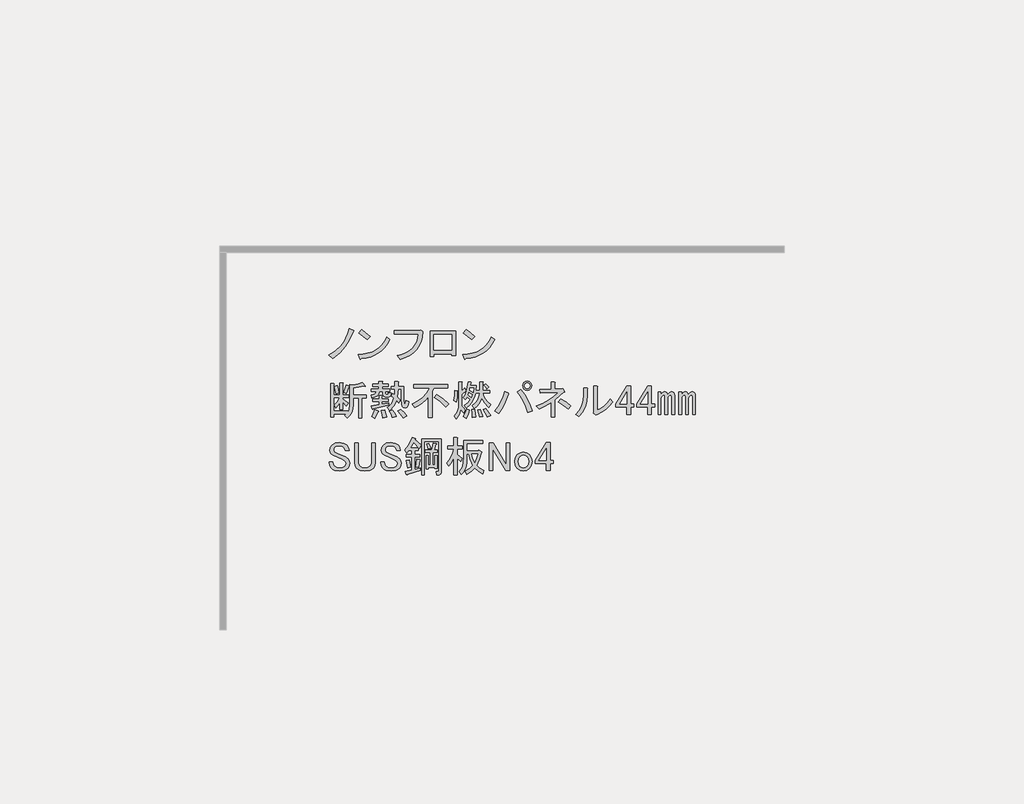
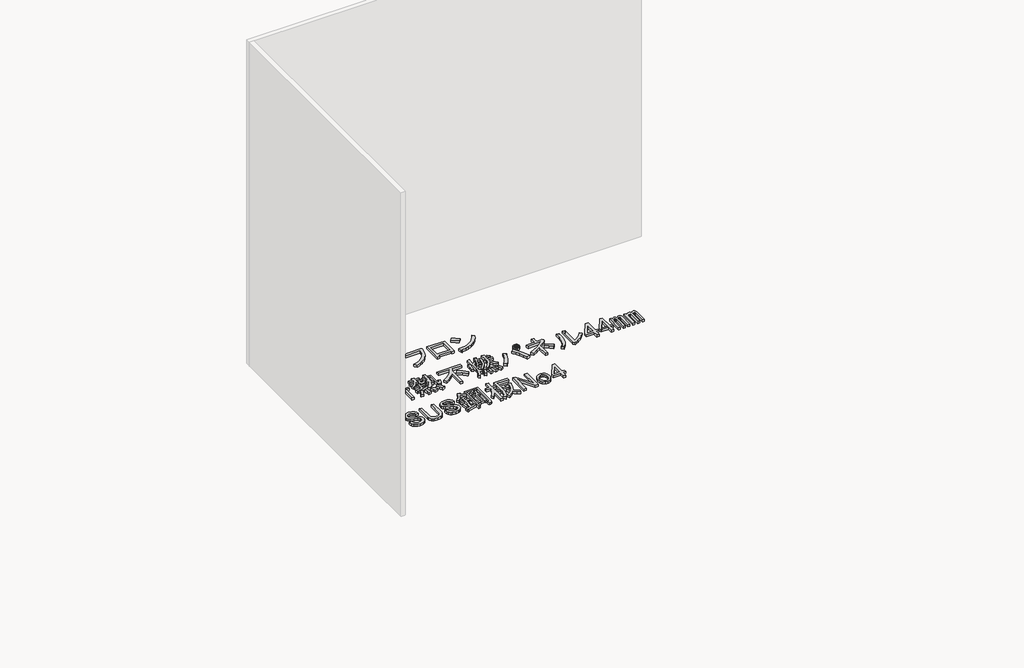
# One storey, part 33 of 117: 1 proxy.
"""IFC4 building model written with IfcOpenShell, lengths in millimetres."""

import ifcopenshell
import ifcopenshell.guid

model = None  # the IFC model being written
_history = None  # IfcOwnerHistory: only IFC2X3 demands one
_inside = {}  # id of a spatial element -> (the spatial element, [elements in it])
_under = {}  # id of a project, library or spatial element -> (it, [spatial elements below it])
_declared = {}  # id of a project -> (the project, [libraries it declares])
_typed = {}  # id of a type object -> (the type object, [elements of that type])
_made_of = {}  # id of a material, layer set ... -> (it, [elements and type objects made of it])


def new_model(schema):
    """Start an empty IFC model of exactly this schema.

    Asked for "IFC4X3", IfcOpenShell would pick the latest addendum, in which some entities
    have other attributes; the version numbers below select the first issue.
    IFC2X3 requires an IfcOwnerHistory on every rooted entity: one is made here for all.
    """
    global model, _history
    if schema == "IFC4X3":
        model = ifcopenshell.file(schema_version=(4, 3, 0, 0))
    else:
        model = ifcopenshell.file(schema=schema)
    _inside.clear()
    _under.clear()
    _declared.clear()
    _typed.clear()
    _made_of.clear()
    _history = None
    if model.schema == "IFC2X3":
        org = make("IfcOrganization", Name="unknown")
        user = make(
            "IfcPersonAndOrganization",
            ThePerson=make("IfcPerson", FamilyName="unknown"),
            TheOrganization=org,
        )
        app = make(
            "IfcApplication",
            ApplicationDeveloper=org,
            Version="unknown",
            ApplicationFullName="unknown",
            ApplicationIdentifier="unknown",
        )
        _history = make(
            "IfcOwnerHistory",
            OwningUser=user,
            OwningApplication=app,
            ChangeAction="ADDED",
            CreationDate=0,
        )
    return model


def make(cls, **values):
    """One entity of the class cls with the attributes given. An attribute that is None is left unset."""
    return model.create_entity(
        cls, **{name: value for name, value in values.items() if value is not None}
    )


def rooted(cls, **values):
    """An entity with a GlobalId (a new one), such as an element, a storey or a relation."""
    return make(cls, GlobalId=ifcopenshell.guid.new(), OwnerHistory=_history, **values)


def si_unit(unit_type, name, prefix=None):
    """IfcSIUnit, for example si_unit("LENGTHUNIT", "METRE", prefix="MILLI")."""
    return make("IfcSIUnit", UnitType=unit_type, Prefix=prefix, Name=name)


def assignment(units):
    """IfcUnitAssignment: the units of a project."""
    return None if units is None else make("IfcUnitAssignment", Units=units)


def point(xyz):
    """IfcCartesianPoint."""
    return None if xyz is None else make("IfcCartesianPoint", Coordinates=xyz)


def direction(xyz):
    """IfcDirection."""
    return None if xyz is None else make("IfcDirection", DirectionRatios=xyz)


def frame(location, z_axis=None, x_axis=None):
    """IfcAxis2Placement3D, a coordinate frame: its origin and axes. An axis left out is left unset."""
    return make(
        "IfcAxis2Placement3D",
        Location=point(location),
        Axis=direction(z_axis),
        RefDirection=direction(x_axis),
    )


def origin():
    """The frame at (0, 0, 0) with its axes left unset."""
    return frame((0.0, 0.0, 0.0))


def place(relative_to, where):
    """IfcLocalPlacement: puts the frame where relative to a parent placement (None: the world)."""
    return make(
        "IfcLocalPlacement", PlacementRelTo=relative_to, RelativePlacement=where
    )


def context(
    kind, dimensions, precision=None, world=None, true_north=None, identifier=None
):
    """IfcGeometricRepresentationContext, for example the 3D "Model" context."""
    return make(
        "IfcGeometricRepresentationContext",
        ContextIdentifier=identifier,
        ContextType=kind,
        CoordinateSpaceDimension=dimensions,
        Precision=precision,
        WorldCoordinateSystem=world,
        TrueNorth=true_north,
    )


def project(units=None, contexts=None):
    """IfcProject with its units and contexts."""
    return rooted(
        "IfcProject",
        Name="project",
        RepresentationContexts=contexts,
        UnitsInContext=assignment(units),
    )


def spatial(cls, under=None, at=None, **own):
    """A site, building, storey or space (cls), placed at a placement, below another one or the project."""
    s = rooted(cls, ObjectPlacement=at, **own)
    if under is not None:
        _under.setdefault(under.id(), (under, []))[1].append(s)
    return s


def polyline(points):
    """IfcPolyline through the points."""
    return make("IfcPolyline", Points=[point(p) for p in points])


def outline(outer, holes=None, kind="AREA"):
    """IfcArbitraryClosedProfileDef: a profile drawn as a closed curve; with holes, ...WithVoids."""
    if holes is None:
        return make("IfcArbitraryClosedProfileDef", ProfileType=kind, OuterCurve=outer)
    return make(
        "IfcArbitraryProfileDefWithVoids",
        ProfileType=kind,
        OuterCurve=outer,
        InnerCurves=holes,
    )


def extrude(swept, where, along, depth):
    """IfcExtrudedAreaSolid: the profile swept, set in the frame where, extruded along a direction by depth."""
    return make(
        "IfcExtrudedAreaSolid",
        SweptArea=swept,
        Position=where,
        ExtrudedDirection=direction(along),
        Depth=depth,
    )


def shape(context_of_items, identifier, shape_type, items):
    """IfcShapeRepresentation: the items that make up one representation, for example the "Body"."""
    return make(
        "IfcShapeRepresentation",
        ContextOfItems=context_of_items,
        RepresentationIdentifier=identifier,
        RepresentationType=shape_type,
        Items=items,
    )


def made_of(thing, what):
    """Note that an element or type object is made of a material, layer set ...; save() writes the relation."""
    if what is not None:
        _made_of.setdefault(what.id(), (what, []))[1].append(thing)
    return thing


def element(
    cls,
    number,
    at=None,
    inside=None,
    cuts=None,
    type_object=None,
    material=None,
    context=None,
    identifier="Body",
    shape_type=None,
    held_by="IfcProductDefinitionShape",
    body=None,
    shapes=None,
    **own,
):
    """One element of the class cls, such as IfcWall. Its Tag is "e" and its number.

    at: its placement. inside: the storey or other place that contains it. cuts: it is an
    opening in that element (IfcRelVoidsElement). A single representation is given by context,
    identifier, shape_type and body (its items); several are given by shapes. held_by: the class
    of the entity that holds the representations. save() writes the other relations.
    """
    e = rooted(cls, Tag="e%d" % number, ObjectPlacement=at, **own)
    if body is not None:
        shapes = [shape(context, identifier, shape_type, body)]
    if shapes is not None:
        e.Representation = make(held_by, Representations=shapes)
    if inside is not None:
        _inside.setdefault(inside.id(), (inside, []))[1].append(e)
    if cuts is not None:
        rooted(
            "IfcRelVoidsElement", RelatingBuildingElement=cuts, RelatedOpeningElement=e
        )
    if type_object is not None:
        _typed.setdefault(type_object.id(), (type_object, []))[1].append(e)
    return made_of(e, material)


def aggregate(whole, parts):
    """IfcRelAggregates: a whole, such as a stair, and the parts it consists of."""
    return rooted("IfcRelAggregates", RelatingObject=whole, RelatedObjects=parts)


def save(model, path):
    """Write the relations noted so far, then the file.

    IfcRelAggregates (storeys below a building ...), IfcRelContainedInSpatialStructure (elements
    in a storey), IfcRelDefinesByType, IfcRelAssociatesMaterial and IfcRelDeclares: one each for
    every whole, place, type object, material and project.
    """
    for whole, parts in _under.values():
        aggregate(whole, parts)
    for where, things in _inside.values():
        rooted(
            "IfcRelContainedInSpatialStructure",
            RelatedElements=things,
            RelatingStructure=where,
        )
    for kind, things in _typed.values():
        rooted("IfcRelDefinesByType", RelatedObjects=things, RelatingType=kind)
    for what, things in _made_of.values():
        rooted("IfcRelAssociatesMaterial", RelatedObjects=things, RelatingMaterial=what)
    for by, libraries in _declared.values():
        rooted("IfcRelDeclares", RelatingContext=by, RelatedDefinitions=libraries)
    model.write(path)


model = new_model("IFC4")

# Units and contexts
model_context = context("Model", 3, world=origin())
ifc_project = project(units=[si_unit("LENGTHUNIT", "METRE", prefix="MILLI")], contexts=[model_context])

# Site, building, storey
site = spatial("IfcSite", under=ifc_project)
building = spatial("IfcBuilding", under=site)
storey = spatial("IfcBuildingStorey", under=building, Name="レベル 1", Elevation=500.0)

# Proxy
placement = place(None, origin())
element("IfcBuildingElementProxy", 1, Name="200㎜\u3000MS Pゴシック", ObjectType="200㎜\u3000MS Pゴシック", at=placement, inside=storey, context=model_context, shape_type="SweptSolid", body=[
    extrude(outline(polyline([(16943.6706985, -20607.0496882), (16918.0952502, -20666.8215225), (16889.646156, -20712.7998566), (16847.9782907, -20758.2034615), (16798.8389462, -20795.560858), (16771.2519457, -20773.7211493), (16818.9544673, -20743.2605029), (16858.6107805, -20704.7536481), (16875.9963381, -20680.8305462), (16891.3703435, -20652.7406577), (16904.7327969, -20620.4839827), (16916.0836981, -20584.0605212), (16947.1190736, -20597.8540214), (16950.2800841, -20602.4518548), (16943.6706985, -20607.0496882)])), frame((0.0, 0.0, 500.0), z_axis=(0.0, 0.0, 1.0), x_axis=(1.0, 0.0, 0.0)), (0.0, 0.0, 1.0), 25.0),
    extrude(outline(polyline([(17043.3977052, -20662.2236891), (16984.7753292, -20615.0958967), (17004.3161212, -20590.9572713), (17031.6157571, -20610.7854279), (17065.2374138, -20640.3839804), (17043.3977052, -20662.2236891)])), frame((0.0, 0.0, 500.0), z_axis=(0.0, 0.0, 1.0), x_axis=(1.0, 0.0, 0.0)), (0.0, 0.0, 1.0), 25.0),
    extrude(outline(polyline([(17205.4713328, -20662.2236891), (17188.947869, -20691.965924), (17169.8381239, -20717.9724192), (17148.1420975, -20740.2431748), (17123.8597898, -20758.7781907), (17096.9912008, -20773.577467), (17067.5363306, -20784.6410036), (17035.495179, -20791.9688006), (17000.8677461, -20795.560858), (16995.1204544, -20803.6070664), (16989.3731626, -20797.8597747), (16980.1774958, -20767.9738575), (17016.0082679, -20765.2977748), (17048.7857912, -20758.9937141), (17078.5100658, -20749.0616756), (17105.1810916, -20735.5016591), (17128.7988687, -20718.3136646), (17149.363397, -20697.4976923), (17166.8746766, -20673.053742), (17181.3327074, -20644.9818138), (17205.4713328, -20662.2236891)])), frame((0.0, 0.0, 500.0), z_axis=(0.0, 0.0, 1.0), x_axis=(1.0, 0.0, 0.0)), (0.0, 0.0, 1.0), 25.0),
    extrude(outline(polyline([(17256.2314136, -20777.1695243), (17290.014713, -20767.4889298), (17319.5234641, -20755.1142922), (17344.757667, -20740.0456116), (17365.7173217, -20722.282888), (17382.402428, -20701.8261214), (17394.8129862, -20678.6753118), (17402.9489961, -20652.8304591), (17406.8104577, -20624.2915635), (17234.3917049, -20624.2915635), (17234.3917049, -20599.0034798), (17409.1093744, -20599.0034798), (17425.2017914, -20595.5551047), (17437.8458332, -20607.0496882), (17434.325617, -20643.5449909), (17426.0638851, -20676.5919185), (17413.0606375, -20706.1904711), (17395.3158742, -20732.3406486), (17372.8295952, -20755.042451), (17345.6018005, -20774.2958784), (17313.6324901, -20790.1009308), (17276.921664, -20802.4576081), (17256.2314136, -20777.1695243)])), frame((0.0, 0.0, 500.0), z_axis=(0.0, 0.0, 1.0), x_axis=(1.0, 0.0, 0.0)), (0.0, 0.0, 1.0), 25.0),
    extrude(outline(polyline([(17670.955987, -20776.020066), (17644.5184449, -20776.020066), (17644.5184449, -20763.3760241), (17516.9285679, -20763.3760241), (17516.9285679, -20781.7673577), (17490.4910258, -20781.7673577), (17490.4910258, -20602.4518548), (17670.955987, -20602.4518548), (17670.955987, -20776.020066)]), holes=[polyline([(17516.9285679, -20627.7399386), (17516.9285679, -20738.0879404), (17644.5184449, -20738.0879404), (17644.5184449, -20627.7399386), (17516.9285679, -20627.7399386)])]), frame((0.0, 0.0, 500.0), z_axis=(0.0, 0.0, 1.0), x_axis=(1.0, 0.0, 0.0)), (0.0, 0.0, 1.0), 25.0),
    extrude(outline(polyline([(17947.0099049, -20662.2236891), (17930.4864411, -20691.965924), (17911.376696, -20717.9724192), (17889.6806696, -20740.2431748), (17865.3983619, -20758.7781907), (17838.5297729, -20773.577467), (17809.0749026, -20784.6410036), (17777.0337511, -20791.9688006), (17742.4063182, -20795.560858), (17736.6590264, -20803.6070664), (17730.9117347, -20797.8597747), (17721.7160679, -20767.9738575), (17757.5468399, -20765.2977748), (17790.3243633, -20758.9937141), (17820.0486378, -20749.0616756), (17846.7196637, -20735.5016591), (17870.3374407, -20718.3136646), (17890.9019691, -20697.4976923), (17908.4132486, -20673.053742), (17922.8712795, -20644.9818138), (17947.0099049, -20662.2236891)])), frame((0.0, 0.0, 500.0), z_axis=(0.0, 0.0, 1.0), x_axis=(1.0, 0.0, 0.0)), (0.0, 0.0, 1.0), 25.0),
    extrude(outline(polyline([(17784.9362772, -20662.2236891), (17726.3139013, -20615.0958967), (17745.8546933, -20590.9572713), (17773.1543291, -20610.7854279), (17806.7759859, -20640.3839804), (17784.9362772, -20662.2236891)])), frame((0.0, 0.0, 500.0), z_axis=(0.0, 0.0, 1.0), x_axis=(1.0, 0.0, 0.0)), (0.0, 0.0, 1.0), 25.0),
    extrude(outline(polyline([(16877.0021141, -21039.2345221), (16894.2439894, -20986.3594379), (16914.9342397, -20992.1067296), (16916.6584273, -20995.2677401), (16912.635323, -20997.8540214), (16895.3934477, -21046.1312722), (16877.0021141, -21039.2345221)])), frame((0.0, 0.0, 500.0), z_axis=(0.0, 0.0, 1.0), x_axis=(1.0, 0.0, 0.0)), (0.0, 0.0, 1.0), 25.0),
    extrude(outline(polyline([(17031.0295333, -20990.9572713), (17029.3053458, -20995.5551047), (17021.8338665, -20993.256188), (16944.8201569, -21005.9002299), (16944.8201569, -21055.326939), (17036.7768251, -21055.326939), (17036.7768251, -21077.1666477), (17005.7414495, -21077.1666477), (17005.7414495, -21217.4005666), (16982.7522825, -21217.4005666), (16982.7522825, -21077.1666477), (16944.8201569, -21077.1666477), (16944.8201569, -21126.5933568), (16942.2338756, -21154.3958807), (16934.4750317, -21179.1810764), (16921.5436253, -21200.948944), (16903.4396562, -21219.6994833), (16886.1977809, -21200.1586914), (16896.5429061, -21190.9630245), (16806.8851546, -21190.9630245), (16806.8851546, -21212.8027332), (16783.8959876, -21212.8027332), (16783.8959876, -20973.715396), (16805.7356963, -20973.715396), (16810.6208943, -20976.0143127), (16806.8851546, -20980.6121461), (16806.8851546, -21056.4763974), (16849.4151137, -21056.4763974), (16849.4151137, -20969.1175626), (16867.8064473, -20969.1175626), (16872.6916453, -20971.4164793), (16868.9559057, -20976.0143127), (16868.9559057, -21056.4763974), (16912.635323, -21056.4763974), (16912.635323, -21074.867731), (16868.9559057, -21074.867731), (16868.9559057, -21084.0633978), (16909.186948, -21110.5009399), (16895.3934477, -21132.3406486), (16868.9559057, -21105.9031065), (16868.9559057, -21158.7781907), (16849.4151137, -21158.7781907), (16849.4151137, -21110.5009399), (16836.1963426, -21130.3290965), (16821.8281132, -21146.1341488), (16809.1840713, -21127.7428152), (16831.02378, -21103.6041898), (16848.2656553, -21074.867731), (16806.8851546, -21074.867731), (16806.8851546, -21169.1233159), (16904.5891146, -21169.1233159), (16904.5891146, -21182.9168161), (16917.520521, -21158.7781907), (16921.8309898, -21125.4438985), (16921.8309898, -20980.6121461), (16943.6706985, -20986.3594379), (16979.8786366, -20978.8879586), (17010.339283, -20965.6691875), (17031.0295333, -20990.9572713)])), frame((0.0, 0.0, 500.0), z_axis=(0.0, 0.0, 1.0), x_axis=(1.0, 0.0, 0.0)), (0.0, 0.0, 1.0), 25.0),
    extrude(outline(polyline([(16822.9775716, -21047.2807305), (16810.3335297, -20996.7045631), (16829.8743217, -20989.8078129), (16837.6331656, -21013.9464383), (16842.5183636, -21040.3839804), (16822.9775716, -21047.2807305)])), frame((0.0, 0.0, 500.0), z_axis=(0.0, 0.0, 1.0), x_axis=(1.0, 0.0, 0.0)), (0.0, 0.0, 1.0), 25.0),
    extrude(outline(polyline([(17121.8367431, -21167.9738575), (17125.2851182, -21172.8590555), (17119.5378264, -21176.020066), (17109.7674304, -21201.5955143), (17098.8475761, -21220.8489417), (17075.858409, -21209.3543582), (17088.5024509, -21185.790462), (17098.8475761, -21158.7781907), (17121.8367431, -21167.9738575)])), frame((0.0, 0.0, 500.0), z_axis=(0.0, 0.0, 1.0), x_axis=(1.0, 0.0, 0.0)), (0.0, 0.0, 1.0), 25.0),
    extrude(outline(polyline([(17166.6656188, -21163.3760241), (17176.7233794, -21190.67566), (17181.6085774, -21212.8027332), (17152.8721186, -21218.550025), (17150.2858373, -21196.9976809), (17142.5269934, -21166.8243992), (17166.6656188, -21163.3760241)])), frame((0.0, 0.0, 500.0), z_axis=(0.0, 0.0, 1.0), x_axis=(1.0, 0.0, 0.0)), (0.0, 0.0, 1.0), 25.0),
    extrude(outline(polyline([(17281.611454, -21157.6287323), (17306.3248086, -21178.8937119), (17325.2908714, -21203.6070664), (17298.8533293, -21218.550025), (17279.5999019, -21188.9514724), (17260.9212037, -21169.1233159), (17281.611454, -21157.6287323)])), frame((0.0, 0.0, 500.0), z_axis=(0.0, 0.0, 1.0), x_axis=(1.0, 0.0, 0.0)), (0.0, 0.0, 1.0), 25.0),
    extrude(outline(polyline([(17222.9890781, -21216.2511083), (17214.655505, -21191.5377537), (17201.1493694, -21170.2727742), (17221.8396197, -21162.2265657), (17238.7941304, -21183.7789098), (17250.5760785, -21207.0554415), (17222.9890781, -21216.2511083)])), frame((0.0, 0.0, 500.0), z_axis=(0.0, 0.0, 1.0), x_axis=(1.0, 0.0, 0.0)), (0.0, 0.0, 1.0), 25.0),
    extrude(outline(polyline([(17083.9046175, -21153.0308989), (17081.8930654, -21157.9160969), (17078.1573257, -21156.479274), (17072.410034, -21132.3406486), (17127.5840349, -21124.2944401), (17127.5840349, -21101.3052731), (17083.9046175, -21101.3052731), (17083.9046175, -21082.9139395), (17127.5840349, -21082.9139395), (17127.5840349, -21059.9247724), (17145.9753685, -21059.9247724), (17150.8605665, -21062.2236891), (17147.1248268, -21066.8215225), (17147.1248268, -21082.9139395), (17191.9537026, -21082.9139395), (17191.9537026, -21101.3052731), (17147.1248268, -21101.3052731), (17147.1248268, -21120.8460651), (17197.7009943, -21111.6503983), (17197.7009943, -21127.7428152), (17083.9046175, -21153.0308989)])), frame((0.0, 0.0, 500.0), z_axis=(0.0, 0.0, 1.0), x_axis=(1.0, 0.0, 0.0)), (0.0, 0.0, 1.0), 25.0),
    extrude(outline(polyline([(17154.021577, -21031.1883136), (17128.7334932, -21031.1883136), (17124.1356598, -21048.6457123), (17113.7905346, -21061.9363245), (17097.6981177, -21071.0601502), (17075.858409, -21076.0171893), (17071.2605756, -21056.4763974), (17096.5486594, -21047.8554597), (17104.0201386, -21040.5276627), (17108.0432429, -21031.1883136), (17072.410034, -21031.1883136), (17072.410034, -21012.79698), (17126.4345765, -21012.79698), (17126.4345765, -20995.5551047), (17082.7551591, -20995.5551047), (17082.7551591, -20977.1637711), (17126.4345765, -20977.1637711), (17126.4345765, -20958.7724374), (17148.2742852, -20958.7724374), (17153.1594832, -20961.0713541), (17149.4237436, -20965.6691875), (17149.4237436, -20977.1637711), (17191.9537026, -20977.1637711), (17191.9537026, -20995.5551047), (17149.4237436, -20995.5551047), (17149.4237436, -21012.79698), (17202.2988277, -21012.79698), (17202.2988277, -21031.1883136), (17173.5623689, -21031.1883136), (17173.5623689, -21043.8323555), (17174.9991919, -21049.0049181), (17179.3096607, -21050.7291056), (17189.6547859, -21050.7291056), (17193.3905255, -21047.5680951), (17193.1031609, -21038.0850637), (17212.6439529, -21040.3839804), (17209.770307, -21061.9363245), (17204.4540622, -21067.3244106), (17196.551536, -21069.1204392), (17172.4129106, -21069.1204392), (17158.6194104, -21064.2352412), (17154.021577, -21049.5796472), (17154.021577, -21031.1883136)])), frame((0.0, 0.0, 500.0), z_axis=(0.0, 0.0, 1.0), x_axis=(1.0, 0.0, 0.0)), (0.0, 0.0, 1.0), 25.0),
    extrude(outline(polyline([(17285.0598291, -21013.9464383), (17263.2201204, -21013.9464383), (17258.622287, -21071.4193559), (17278.163079, -21089.8106896), (17267.8179538, -21111.6503983), (17251.7255369, -21095.5579813), (17232.4721095, -21133.2027424), (17202.2988277, -21165.6749408), (17185.0569525, -21144.9846905), (17200.1435933, -21133.0590601), (17213.2186821, -21117.9724192), (17224.2822187, -21099.7247679), (17233.3342033, -21078.316106), (17216.092328, -21063.3731475), (17224.1385364, -21046.1312722), (17237.9320367, -21056.4763974), (17240.2309534, -21013.9464383), (17212.6439529, -21013.9464383), (17212.6439529, -20995.5551047), (17240.2309534, -20995.5551047), (17240.2309534, -20961.0713541), (17262.0706621, -20961.0713541), (17266.95586, -20963.3702708), (17263.2201204, -20967.9681043), (17263.2201204, -20995.5551047), (17304.6006211, -20995.5551047), (17304.6006211, -21092.1096063), (17308.0489961, -21116.2482317), (17311.2818477, -21118.2597838), (17314.0836525, -21115.0987733), (17318.3941213, -21093.2590646), (17337.9349133, -21100.1558147), (17333.408921, -21126.9525626), (17325.578236, -21142.9731384), (17314.4428582, -21148.2175421), (17300.0027877, -21142.6857738), (17293.4652433, -21135.3579768), (17288.7955687, -21123.719711), (17285.0598291, -21087.5117729), (17285.0598291, -21013.9464383)])), frame((0.0, 0.0, 500.0), z_axis=(0.0, 0.0, 1.0), x_axis=(1.0, 0.0, 0.0)), (0.0, 0.0, 1.0), 25.0),
    extrude(outline(polyline([(17373.5681222, -20980.6121461), (17614.9543761, -20980.6121461), (17614.9543761, -21005.9002299), (17514.9514995, -21005.9002299), (17504.6063743, -21030.0388553), (17504.6063743, -21216.2511083), (17478.1688322, -21216.2511083), (17478.1688322, -21069.1204392), (17457.3348996, -21092.3969709), (17433.9146857, -21112.7998566), (17407.9081905, -21130.3290965), (17379.315414, -21144.9846905), (17363.222997, -21118.5471484), (17402.807469, -21098.1442626), (17436.500967, -21072.5688143), (17464.3034909, -21041.8208034), (17486.2150407, -21005.9002299), (17373.5681222, -21005.9002299), (17373.5681222, -20980.6121461)])), frame((0.0, 0.0, 500.0), z_axis=(0.0, 0.0, 1.0), x_axis=(1.0, 0.0, 0.0)), (0.0, 0.0, 1.0), 25.0),
    extrude(outline(polyline([(17600.0114176, -21141.5363154), (17560.9298336, -21103.3168252), (17519.5493329, -21073.7182726), (17535.6417498, -21053.0280223), (17579.3211672, -21081.1897519), (17620.7016679, -21119.6966067), (17600.0114176, -21141.5363154)])), frame((0.0, 0.0, 500.0), z_axis=(0.0, 0.0, 1.0), x_axis=(1.0, 0.0, 0.0)), (0.0, 0.0, 1.0), 25.0),
    extrude(outline(polyline([(17767.832337, -21163.3760241), (17759.2113993, -21193.8366704), (17744.8431699, -21220.8489417), (17725.3023779, -21208.2048998), (17739.3832427, -21183.4915453), (17749.4410033, -21155.3298156), (17767.832337, -21163.3760241)])), frame((0.0, 0.0, 500.0), z_axis=(0.0, 0.0, 1.0), x_axis=(1.0, 0.0, 0.0)), (0.0, 0.0, 1.0), 25.0),
    extrude(outline(polyline([(17682.7724189, -21025.4410219), (17687.3702523, -21027.7399386), (17682.7724189, -21032.337772), (17681.6229605, -21071.9940851), (17675.8756688, -21105.9031065), (17657.4843352, -21093.2590646), (17663.2316269, -21058.7753141), (17664.3810853, -21021.9926468), (17682.7724189, -21025.4410219)])), frame((0.0, 0.0, 500.0), z_axis=(0.0, 0.0, 1.0), x_axis=(1.0, 0.0, 0.0)), (0.0, 0.0, 1.0), 25.0),
    extrude(outline(polyline([(17734.4980447, -21007.0496882), (17743.6937116, -21024.2915635), (17745.1305345, -21030.3262199), (17740.2453365, -21030.0388553), (17713.8077944, -21050.7291056), (17713.8077944, -21134.6395653), (17727.6012946, -21146.9962426), (17739.0958781, -21163.3760241), (17726.4518363, -21184.0662744), (17708.0605026, -21158.7781907), (17696.2785545, -21194.6987642), (17674.7262104, -21224.2973168), (17659.7832519, -21205.9059831), (17674.8698927, -21187.1554438), (17685.6460648, -21166.5370346), (17692.111768, -21144.0507556), (17694.2670024, -21119.6966067), (17694.2670024, -20962.2208125), (17712.6583361, -20962.2208125), (17717.543534, -20964.5197292), (17713.8077944, -20969.1175626), (17713.8077944, -21027.7399386), (17734.4980447, -21007.0496882)])), frame((0.0, 0.0, 500.0), z_axis=(0.0, 0.0, 1.0), x_axis=(1.0, 0.0, 0.0)), (0.0, 0.0, 1.0), 25.0),
    extrude(outline(polyline([(17885.0770889, -20976.0143127), (17906.9167975, -21000.1529381), (17889.6749223, -21011.6475216), (17883.0655367, -21000.1529381), (17870.1341303, -20986.3594379), (17885.0770889, -20976.0143127)])), frame((0.0, 0.0, 500.0), z_axis=(0.0, 0.0, 1.0), x_axis=(1.0, 0.0, 0.0)), (0.0, 0.0, 1.0), 25.0),
    extrude(outline(polyline([(17895.422214, -21212.8027332), (17882.203443, -21184.6410036), (17865.5362969, -21159.927649), (17883.9276305, -21151.8814406), (17902.8936933, -21174.8706076), (17918.4113811, -21202.4576081), (17895.422214, -21212.8027332)])), frame((0.0, 0.0, 500.0), z_axis=(0.0, 0.0, 1.0), x_axis=(1.0, 0.0, 0.0)), (0.0, 0.0, 1.0), 25.0),
    extrude(outline(polyline([(17845.9955049, -21157.6287323), (17864.3868385, -21207.0554415), (17840.2482131, -21211.6532749), (17826.4547129, -21161.0771074), (17845.9955049, -21157.6287323)])), frame((0.0, 0.0, 500.0), z_axis=(0.0, 0.0, 1.0), x_axis=(1.0, 0.0, 0.0)), (0.0, 0.0, 1.0), 25.0),
    extrude(outline(polyline([(17787.3731289, -21215.1016499), (17787.9478581, -21188.0893787), (17785.0742122, -21159.927649), (17804.6150042, -21158.7781907), (17810.9370252, -21184.9283682), (17811.5117543, -21212.8027332), (17787.3731289, -21215.1016499)])), frame((0.0, 0.0, 500.0), z_axis=(0.0, 0.0, 1.0), x_axis=(1.0, 0.0, 0.0)), (0.0, 0.0, 1.0), 25.0),
    extrude(outline(polyline([(17906.9167975, -21142.6857738), (17876.1687866, -21112.2251274), (17855.1911717, -21078.316106), (17846.7857575, -21100.4431793), (17835.3630151, -21119.6966067), (17820.9229446, -21136.0763882), (17803.4655459, -21149.5825239), (17789.6720456, -21131.1911902), (17810.5059783, -21112.2969686), (17825.8799837, -21091.2475125), (17835.794062, -21068.042822), (17840.2482131, -21042.6828971), (17811.5117543, -21042.6828971), (17803.537387, -21073.2872258), (17789.9594102, -21100.7305439), (17770.777824, -21125.0128516), (17745.9926283, -21146.1341488), (17733.3485864, -21130.0417319), (17759.2113993, -21108.4893878), (17774.7290871, -21087.5117729), (17752.8893784, -21067.9709809), (17739.0958781, -21088.6612312), (17725.3023779, -21073.7182726), (17737.7308964, -21054.6803687), (17747.4294512, -21029.7514907), (17754.3980425, -20998.9316386), (17758.6366701, -20962.2208125), (17779.3269205, -20964.5197292), (17782.7752955, -20967.1060105), (17777.0280038, -20970.267021), (17774.7290871, -20988.6583546), (17818.4085044, -20988.6583546), (17814.9601294, -21024.2915635), (17840.2482131, -21024.2915635), (17840.2482131, -20962.2208125), (17862.0879218, -20962.2208125), (17866.9731198, -20964.5197292), (17863.2373802, -20969.1175626), (17863.2373802, -21024.2915635), (17912.6640893, -21024.2915635), (17912.6640893, -21042.6828971), (17863.2373802, -21042.6828971), (17869.7749245, -21064.4507647), (17881.3413492, -21084.9254916), (17897.9366542, -21104.1070778), (17919.5608394, -21121.9955234), (17906.9167975, -21142.6857738)]), holes=[polyline([(17782.7752955, -21072.5688143), (17789.6720456, -21053.0280223), (17764.3839619, -21036.9356054), (17758.6366701, -21054.1774807), (17782.7752955, -21072.5688143)]), polyline([(17772.4301704, -21007.0496882), (17768.9817953, -21023.1421052), (17794.269879, -21036.9356054), (17798.8677125, -21007.0496882), (17772.4301704, -21007.0496882)])]), frame((0.0, 0.0, 500.0), z_axis=(0.0, 0.0, 1.0), x_axis=(1.0, 0.0, 0.0)), (0.0, 0.0, 1.0), 25.0),
    extrude(outline(polyline([(18132.2106345, -21016.245355), (18158.8637001, -21052.9561812), (18181.3499791, -21090.6727833), (18199.6694716, -21129.3951616), (18213.8221775, -21169.1233159), (18182.786802, -21179.468441), (18167.3409554, -21136.3637528), (18149.7398744, -21097.856898), (18129.983559, -21063.9478766), (18108.0720092, -21034.6366887), (18132.2106345, -21016.245355)])), frame((0.0, 0.0, 500.0), z_axis=(0.0, 0.0, 1.0), x_axis=(1.0, 0.0, 0.0)), (0.0, 0.0, 1.0), 25.0),
    extrude(outline(polyline([(18044.8517998, -21042.6828971), (18048.874904, -21048.1428243), (18042.5528831, -21053.0280223), (18030.6272527, -21088.4457078), (18015.5406118, -21122.282888), (17997.2929605, -21154.539563), (17975.8842987, -21185.2157328), (17949.4467566, -21167.9738575), (17972.6514471, -21136.5074351), (17991.689351, -21103.0294606), (18006.5604684, -21067.539934), (18017.2647993, -21030.0388553), (18044.8517998, -21042.6828971)])), frame((0.0, 0.0, 500.0), z_axis=(0.0, 0.0, 1.0), x_axis=(1.0, 0.0, 0.0)), (0.0, 0.0, 1.0), 25.0),
    extrude(outline(polyline([(18178.1889686, -21021.9926468), (18165.5449268, -21019.6937301), (18155.1998016, -21012.79698), (18148.3030515, -21002.4518548), (18146.0041348, -20989.8078129), (18148.3030515, -20977.1637711), (18155.1998016, -20966.8186459), (18165.5449268, -20959.9218958), (18178.1889686, -20957.6229791), (18190.8330105, -20959.9218958), (18201.1781357, -20966.8186459), (18208.0748858, -20977.1637711), (18210.3738025, -20989.8078129), (18208.0748858, -21002.4518548), (18201.1781357, -21012.79698), (18190.8330105, -21019.6937301), (18178.1889686, -21021.9926468)]), holes=[polyline([(18178.1889686, -21010.4980633), (18186.5225417, -21009.0612403), (18193.1319272, -21004.7507715), (18197.442396, -20998.141386), (18198.879219, -20989.8078129), (18197.442396, -20981.4742399), (18193.1319272, -20974.8648544), (18186.5225417, -20970.5543855), (18178.1889686, -20969.1175626), (18169.8553956, -20970.5543855), (18163.2460101, -20974.8648544), (18158.9355412, -20981.4742399), (18157.4987183, -20989.8078129), (18158.9355412, -20998.141386), (18163.2460101, -21004.7507715), (18169.8553956, -21009.0612403), (18178.1889686, -21010.4980633)])]), frame((0.0, 0.0, 500.0), z_axis=(0.0, 0.0, 1.0), x_axis=(1.0, 0.0, 0.0)), (0.0, 0.0, 1.0), 25.0),
    extrude(outline(polyline([(18421.8741393, -21011.6475216), (18428.7708894, -21009.3486049), (18441.4149312, -21026.5904802), (18442.5643896, -21032.6251366), (18436.8170978, -21034.6366887), (18373.5968885, -21090.9601479), (18373.5968885, -21211.6532749), (18347.1593464, -21211.6532749), (18347.1593464, -21109.3514816), (18306.9283041, -21133.4901069), (18262.0994283, -21155.3298156), (18242.5586363, -21134.6395653), (18288.1059235, -21115.1706145), (18329.3427419, -21092.3969709), (18366.2690915, -21066.3186345), (18398.8849722, -21036.9356054), (18268.9961784, -21042.6828971), (18265.5478034, -21017.3948134), (18347.1593464, -21015.0958967), (18347.1593464, -20963.3702708), (18370.1485134, -20963.3702708), (18376.1831698, -20966.8186459), (18373.5968885, -20972.5659377), (18373.5968885, -21013.9464383), (18421.8741393, -21011.6475216)])), frame((0.0, 0.0, 500.0), z_axis=(0.0, 0.0, 1.0), x_axis=(1.0, 0.0, 0.0)), (0.0, 0.0, 1.0), 25.0),
    extrude(outline(polyline([(18467.8524733, -21155.3298156), (18430.7824415, -21126.0186277), (18397.7355139, -21104.7536481), (18414.9773892, -21082.9139395), (18453.7716085, -21106.1904711), (18487.3932653, -21132.3406486), (18467.8524733, -21155.3298156)])), frame((0.0, 0.0, 500.0), z_axis=(0.0, 0.0, 1.0), x_axis=(1.0, 0.0, 0.0)), (0.0, 0.0, 1.0), 25.0),
    extrude(outline(polyline([(18674.8469334, -21162.2265657), (18699.6321291, -21150.0135708), (18723.4115488, -21132.9153778), (18746.1851924, -21110.9319868), (18767.9530599, -21084.0633978), (18784.0454768, -21105.9031065), (18760.7689452, -21133.7056304), (18734.6187677, -21157.3413678), (18705.5949443, -21176.8103186), (18673.697475, -21192.1124829), (18664.5018082, -21196.7103163), (18646.1104746, -21182.9168161), (18648.4093913, -21177.1695243), (18648.4093913, -20992.1067296), (18672.5480167, -20992.1067296), (18678.2953084, -20995.5551047), (18674.8469334, -21001.3023965), (18674.8469334, -21162.2265657)])), frame((0.0, 0.0, 500.0), z_axis=(0.0, 0.0, 1.0), x_axis=(1.0, 0.0, 0.0)), (0.0, 0.0, 1.0), 25.0),
    extrude(outline(polyline([(18520.8195142, -21193.2619413), (18545.9639157, -21164.0225944), (18563.9242024, -21131.4785548), (18574.7003745, -21095.6298225), (18578.2924318, -21056.4763974), (18578.2924318, -21004.7507715), (18602.4310572, -21004.7507715), (18608.178349, -21008.1991466), (18604.7299739, -21013.9464383), (18604.7299739, -21055.326939), (18600.9223931, -21101.0897496), (18589.4996507, -21141.82368), (18570.4617468, -21177.5287301), (18543.8086812, -21208.2048998), (18520.8195142, -21193.2619413)])), frame((0.0, 0.0, 500.0), z_axis=(0.0, 0.0, 1.0), x_axis=(1.0, 0.0, 0.0)), (0.0, 0.0, 1.0), 25.0),
    extrude(outline(polyline([(18884.0483535, -20993.256188), (18910.4858955, -20993.256188), (18910.4858955, -21119.6966067), (18934.6245209, -21119.6966067), (18934.6245209, -21141.5363154), (18910.4858955, -21141.5363154), (18910.4858955, -21192.1124829), (18884.0483535, -21192.1124829), (18884.0483535, -21141.5363154), (18807.0346439, -21141.5363154), (18807.0346439, -21118.5471484), (18884.0483535, -20993.256188)]), holes=[polyline([(18884.0483535, -21035.786147), (18832.3227276, -21119.6966067), (18884.0483535, -21119.6966067), (18884.0483535, -21035.786147)])]), frame((0.0, 0.0, 500.0), z_axis=(0.0, 0.0, 1.0), x_axis=(1.0, 0.0, 0.0)), (0.0, 0.0, 1.0), 25.0),
    extrude(outline(polyline([(19031.1790225, -20993.256188), (19057.6165646, -20993.256188), (19057.6165646, -21119.6966067), (19081.75519, -21119.6966067), (19081.75519, -21141.5363154), (19057.6165646, -21141.5363154), (19057.6165646, -21192.1124829), (19031.1790225, -21192.1124829), (19031.1790225, -21141.5363154), (18954.1653129, -21141.5363154), (18954.1653129, -21118.5471484), (19031.1790225, -20993.256188)]), holes=[polyline([(19031.1790225, -21035.786147), (18979.4533967, -21119.6966067), (19031.1790225, -21119.6966067), (19031.1790225, -21035.786147)])]), frame((0.0, 0.0, 500.0), z_axis=(0.0, 0.0, 1.0), x_axis=(1.0, 0.0, 0.0)), (0.0, 0.0, 1.0), 25.0),
    extrude(outline(polyline([(19125.4346074, -21193.2619413), (19105.8938154, -21193.2619413), (19105.8938154, -21035.786147), (19125.4346074, -21035.786147), (19125.4346074, -21053.0280223), (19137.5039201, -21037.5103346), (19150.7226911, -21032.337772), (19159.9183579, -21033.7745949), (19166.8151081, -21038.0850637), (19173.7118582, -21051.878564), (19186.6432646, -21037.22297), (19200.1494003, -21032.337772), (19208.4829733, -21033.7745949), (19215.0923588, -21038.0850637), (19220.2649214, -21046.7060014), (19221.989109, -21058.7753141), (19221.989109, -21193.2619413), (19202.448317, -21193.2619413), (19202.448317, -21069.1204392), (19199.8620357, -21059.6374078), (19192.1031918, -21056.4763974), (19181.7580666, -21061.0742308), (19175.7234103, -21069.6951684), (19173.7118582, -21079.4655644), (19173.7118582, -21193.2619413), (19154.1710662, -21193.2619413), (19154.1710662, -21069.1204392), (19151.5847849, -21059.6374078), (19143.825941, -21056.4763974), (19133.4808158, -21061.0742308), (19127.4461595, -21069.6951684), (19125.4346074, -21079.4655644), (19125.4346074, -21193.2619413)])), frame((0.0, 0.0, 500.0), z_axis=(0.0, 0.0, 1.0), x_axis=(1.0, 0.0, 0.0)), (0.0, 0.0, 1.0), 25.0),
    extrude(outline(polyline([(19347.2800693, -21032.337772), (19355.6136424, -21033.7745949), (19362.2230279, -21038.0850637), (19367.3955905, -21046.7060014), (19369.119778, -21058.7753141), (19369.119778, -21193.2619413), (19349.578986, -21193.2619413), (19349.578986, -21069.1204392), (19346.9927047, -21059.6374078), (19339.2338609, -21056.4763974), (19328.8887357, -21061.0742308), (19322.8540793, -21069.6951684), (19320.8425272, -21079.4655644), (19320.8425272, -21193.2619413), (19301.3017352, -21193.2619413), (19301.3017352, -21069.1204392), (19298.715454, -21059.6374078), (19290.9566101, -21056.4763974), (19280.6114849, -21061.0742308), (19274.5768286, -21069.6951684), (19272.5652764, -21079.4655644), (19272.5652764, -21193.2619413), (19253.0244845, -21193.2619413), (19253.0244845, -21035.786147), (19272.5652764, -21035.786147), (19272.5652764, -21053.0280223), (19284.6345891, -21037.5103346), (19297.8533602, -21032.337772), (19307.049027, -21033.7745949), (19313.9457771, -21038.0850637), (19320.8425272, -21051.878564), (19333.7739337, -21037.22297), (19347.2800693, -21032.337772)])), frame((0.0, 0.0, 500.0), z_axis=(0.0, 0.0, 1.0), x_axis=(1.0, 0.0, 0.0)), (0.0, 0.0, 1.0), 25.0),
    extrude(outline(polyline([(16779.2981542, -21447.2807305), (16783.3212584, -21426.8778448), (16795.3905711, -21409.3486049), (16815.7934569, -21397.2792922), (16844.8172803, -21393.256188), (16876.1400204, -21397.8540214), (16898.8418228, -21411.6475216), (16910.9111355, -21429.1767615), (16914.9342397, -21449.5796472), (16888.4966976, -21449.5796472), (16886.1977809, -21436.9356054), (16879.3010308, -21426.5904802), (16866.0822598, -21418.8316363), (16847.116197, -21416.245355), (16826.7133112, -21418.5442717), (16813.7819048, -21425.4410219), (16807.7472484, -21434.0619595), (16805.7356963, -21443.8323555), (16810.3335297, -21458.7753141), (16831.02378, -21470.2698976), (16890.7956143, -21496.7074397), (16908.0374896, -21508.2020232), (16917.520521, -21521.9955234), (16920.6815315, -21538.0879404), (16916.6584273, -21559.3529199), (16904.5891146, -21577.1695243), (16894.6031951, -21584.7128448), (16881.8873121, -21590.1009308), (16848.2656553, -21594.4113996), (16814.6439985, -21589.238837), (16801.0660217, -21582.7731338), (16789.6432794, -21573.7211493), (16778.4360604, -21555.3298156), (16774.7003208, -21530.0417319), (16801.1378629, -21530.0417319), (16803.4367796, -21547.8583363), (16810.3335297, -21559.927649), (16826.4259466, -21569.4106804), (16849.4151137, -21572.5716909), (16870.3927286, -21569.698045), (16885.0483226, -21561.0771074), (16891.9450727, -21551.8814406), (16894.2439894, -21542.6857738), (16892.5198019, -21533.2027424), (16887.3472393, -21525.4438985), (16868.9559057, -21513.949315), (16839.0699885, -21500.1558147), (16805.7356963, -21485.2128562), (16789.6432794, -21474.867731), (16781.8844355, -21462.7984183), (16779.2981542, -21447.2807305)])), frame((0.0, 0.0, 500.0), z_axis=(0.0, 0.0, 1.0), x_axis=(1.0, 0.0, 0.0)), (0.0, 0.0, 1.0), 25.0),
    extrude(outline(polyline([(16954.7054987, -21395.5551047), (16981.1430408, -21395.5551047), (16981.1430408, -21533.4901069), (16983.7293221, -21548.1457009), (16991.488166, -21559.927649), (17007.0058537, -21569.4106804), (17028.2708332, -21572.5716909), (17049.5358128, -21569.4106804), (17065.0535005, -21559.927649), (17072.8123444, -21548.1457009), (17075.3986257, -21533.4901069), (17075.3986257, -21395.5551047), (17101.8361678, -21395.5551047), (17101.8361678, -21534.6395653), (17097.8130635, -21557.6287323), (17085.7437508, -21576.020066), (17075.2549434, -21584.0662744), (17062.1798546, -21589.8135662), (17028.2708332, -21594.4113996), (16994.3618119, -21589.8135662), (16981.2867231, -21584.0662744), (16970.7979156, -21576.020066), (16958.7286029, -21557.6287323), (16954.7054987, -21534.6395653), (16954.7054987, -21395.5551047)])), frame((0.0, 0.0, 500.0), z_axis=(0.0, 0.0, 1.0), x_axis=(1.0, 0.0, 0.0)), (0.0, 0.0, 1.0), 25.0),
    extrude(outline(polyline([(17144.1822135, -21447.2807305), (17148.2053177, -21426.8778448), (17160.2746304, -21409.3486049), (17180.6775161, -21397.2792922), (17209.7013395, -21393.256188), (17241.0240796, -21397.8540214), (17263.7258821, -21411.6475216), (17275.7951948, -21429.1767615), (17279.818299, -21449.5796472), (17253.3807569, -21449.5796472), (17251.0818402, -21436.9356054), (17244.1850901, -21426.5904802), (17230.966319, -21418.8316363), (17212.0002562, -21416.245355), (17191.5973705, -21418.5442717), (17178.665964, -21425.4410219), (17172.6313077, -21434.0619595), (17170.6197556, -21443.8323555), (17175.217589, -21458.7753141), (17195.9078393, -21470.2698976), (17255.6796736, -21496.7074397), (17272.9215489, -21508.2020232), (17282.4045803, -21521.9955234), (17285.5655908, -21538.0879404), (17281.5424865, -21559.3529199), (17269.4731738, -21577.1695243), (17259.4872544, -21584.7128448), (17246.7713714, -21590.1009308), (17213.1497146, -21594.4113996), (17179.5280578, -21589.238837), (17165.950081, -21582.7731338), (17154.5273386, -21573.7211493), (17143.3201197, -21555.3298156), (17139.5843801, -21530.0417319), (17166.0219222, -21530.0417319), (17168.3208389, -21547.8583363), (17175.217589, -21559.927649), (17191.3100059, -21569.4106804), (17214.2991729, -21572.5716909), (17235.2767879, -21569.698045), (17249.9323819, -21561.0771074), (17256.829132, -21551.8814406), (17259.1280487, -21542.6857738), (17257.4038611, -21533.2027424), (17252.2312986, -21525.4438985), (17233.8399649, -21513.949315), (17203.9540478, -21500.1558147), (17170.6197556, -21485.2128562), (17154.5273386, -21474.867731), (17146.7684948, -21462.7984183), (17144.1822135, -21447.2807305)])), frame((0.0, 0.0, 500.0), z_axis=(0.0, 0.0, 1.0), x_axis=(1.0, 0.0, 0.0)), (0.0, 0.0, 1.0), 25.0),
    extrude(outline(polyline([(17428.7881014, -21365.6691875), (17569.0220204, -21365.6691875), (17569.0220204, -21605.9059831), (17565.2862807, -21617.1132021), (17554.0790618, -21620.8489417), (17537.9866449, -21620.8489417), (17533.3888115, -21599.009233), (17544.883395, -21599.009233), (17548.33177, -21597.8597747), (17549.4812284, -21594.4113996), (17549.4812284, -21384.0605212), (17448.3288934, -21384.0605212), (17448.3288934, -21623.1478584), (17428.7881014, -21623.1478584), (17428.7881014, -21365.6691875)])), frame((0.0, 0.0, 500.0), z_axis=(0.0, 0.0, 1.0), x_axis=(1.0, 0.0, 0.0)), (0.0, 0.0, 1.0), 25.0),
    extrude(outline(polyline([(17417.2935179, -21513.949315), (17419.8797992, -21517.1103254), (17416.1440596, -21519.6966067), (17408.0978511, -21566.8243992), (17389.7065175, -21564.5254825), (17395.4538092, -21510.5009399), (17417.2935179, -21513.949315)])), frame((0.0, 0.0, 500.0), z_axis=(0.0, 0.0, 1.0), x_axis=(1.0, 0.0, 0.0)), (0.0, 0.0, 1.0), 25.0),
    extrude(outline(polyline([(17340.2798083, -21515.0987733), (17351.7743918, -21566.8243992), (17331.0841415, -21572.5716909), (17319.589558, -21520.8460651), (17340.2798083, -21515.0987733)])), frame((0.0, 0.0, 500.0), z_axis=(0.0, 0.0, 1.0), x_axis=(1.0, 0.0, 0.0)), (0.0, 0.0, 1.0), 25.0),
    extrude(outline(polyline([(17413.8451429, -21434.6366887), (17372.4646422, -21390.9572713), (17350.6249335, -21430.0388553), (17405.7989344, -21430.0388553), (17405.7989344, -21448.4301889), (17379.3613923, -21448.4301889), (17379.3613923, -21477.1666477), (17417.2935179, -21477.1666477), (17417.2935179, -21495.5579813), (17379.3613923, -21495.5579813), (17379.3613923, -21582.9168161), (17418.4429763, -21572.5716909), (17420.741893, -21592.1124829), (17328.7852248, -21617.4005666), (17326.4863081, -21623.1478584), (17321.8884747, -21619.6994833), (17314.9917246, -21596.7103163), (17359.8206003, -21587.5146495), (17359.8206003, -21495.5579813), (17321.8884747, -21495.5579813), (17321.8884747, -21477.1666477), (17359.8206003, -21477.1666477), (17359.8206003, -21448.4301889), (17337.9808916, -21448.4301889), (17323.037933, -21466.8215225), (17310.3938912, -21446.1312722), (17338.5556208, -21408.4865112), (17363.2689754, -21357.6229791), (17385.1086841, -21363.3702708), (17388.5570591, -21367.1060105), (17382.8097674, -21369.1175626), (17381.660309, -21372.5659377), (17426.4891847, -21410.4980633), (17413.8451429, -21434.6366887)])), frame((0.0, 0.0, 500.0), z_axis=(0.0, 0.0, 1.0), x_axis=(1.0, 0.0, 0.0)), (0.0, 0.0, 1.0), 25.0),
    extrude(outline(polyline([(17481.6631856, -21397.8540214), (17488.8473003, -21413.0843446), (17494.3072275, -21433.4872303), (17477.0653522, -21439.2345221), (17465.5707687, -21402.4518548), (17481.6631856, -21397.8540214)])), frame((0.0, 0.0, 500.0), z_axis=(0.0, 0.0, 1.0), x_axis=(1.0, 0.0, 0.0)), (0.0, 0.0, 1.0), 25.0),
    extrude(outline(polyline([(17534.5382698, -21399.0034798), (17537.1245511, -21402.4518548), (17531.0898948, -21405.9002299), (17518.4458529, -21443.8323555), (17539.1361032, -21443.8323555), (17539.1361032, -21462.2236891), (17508.1007277, -21462.2236891), (17508.1007277, -21550.7319822), (17523.0436863, -21550.7319822), (17523.0436863, -21482.9139395), (17539.1361032, -21482.9139395), (17539.1361032, -21577.1695243), (17523.0436863, -21577.1695243), (17523.0436863, -21569.1233159), (17477.0653522, -21569.1233159), (17477.0653522, -21581.7673577), (17460.9729353, -21581.7673577), (17460.9729353, -21485.2128562), (17477.0653522, -21485.2128562), (17477.0653522, -21550.7319822), (17492.0083108, -21550.7319822), (17492.0083108, -21462.2236891), (17456.3751019, -21462.2236891), (17456.3751019, -21443.8323555), (17502.353436, -21443.8323555), (17512.6985611, -21394.4056463), (17534.5382698, -21399.0034798)])), frame((0.0, 0.0, 500.0), z_axis=(0.0, 0.0, 1.0), x_axis=(1.0, 0.0, 0.0)), (0.0, 0.0, 1.0), 25.0),
    extrude(outline(polyline([(17657.5303135, -21623.1478584), (17657.5303135, -21503.6041898), (17639.713709, -21537.8005758), (17620.7476462, -21559.927649), (17609.2530627, -21539.2373987), (17626.494938, -21516.5355963), (17640.2884382, -21492.1096063), (17650.6335634, -21465.9594288), (17657.5303135, -21438.0850637), (17616.1498128, -21438.0850637), (17616.1498128, -21416.245355), (17657.5303135, -21416.245355), (17657.5303135, -21356.4735207), (17679.3700222, -21356.4735207), (17684.2552202, -21358.7724374), (17680.5194805, -21363.3702708), (17680.5194805, -21416.245355), (17718.4516061, -21416.245355), (17718.4516061, -21438.0850637), (17680.5194805, -21438.0850637), (17680.5194805, -21478.316106), (17718.4516061, -21504.7536481), (17708.106481, -21527.7428152), (17680.5194805, -21504.7536481), (17680.5194805, -21623.1478584), (17657.5303135, -21623.1478584)])), frame((0.0, 0.0, 500.0), z_axis=(0.0, 0.0, 1.0), x_axis=(1.0, 0.0, 0.0)), (0.0, 0.0, 1.0), 25.0),
    extrude(outline(polyline([(17740.2913148, -21594.4113996), (17769.0277736, -21577.1695243), (17790.8674823, -21555.3298156), (17773.0508779, -21513.3745858), (17763.2804819, -21472.5688143), (17750.63644, -21472.5688143), (17750.63644, -21496.7074397), (17748.193841, -21538.4471461), (17740.866044, -21572.8590555), (17728.653049, -21599.9431679), (17711.554856, -21619.6994833), (17697.7613558, -21596.7103163), (17710.8364446, -21579.3247587), (17720.1757937, -21557.0540032), (17725.7794031, -21529.8980496), (17727.647273, -21497.856898), (17727.647273, -21377.1637711), (17864.4328169, -21377.1637711), (17864.4328169, -21399.0034798), (17750.63644, -21399.0034798), (17750.63644, -21450.7291056), (17829.9490663, -21450.7291056), (17835.6963581, -21444.9818138), (17855.23715, -21458.7753141), (17856.673973, -21462.5110537), (17851.788775, -21466.8215225), (17839.4320977, -21513.3745858), (17820.7533995, -21554.1803573), (17839.7194623, -21572.5716909), (17871.329567, -21590.9630245), (17862.1339002, -21615.1016499), (17834.2595351, -21599.009233), (17805.8104409, -21573.7211493), (17781.3844509, -21598.1471392), (17749.4869817, -21618.550025), (17740.2913148, -21594.4113996)]), holes=[polyline([(17785.1201906, -21472.5688143), (17793.166399, -21505.6157419), (17805.8104409, -21533.4901069), (17818.4544828, -21507.3399294), (17826.5006912, -21472.5688143), (17785.1201906, -21472.5688143)])]), frame((0.0, 0.0, 500.0), z_axis=(0.0, 0.0, 1.0), x_axis=(1.0, 0.0, 0.0)), (0.0, 0.0, 1.0), 25.0),
    extrude(outline(polyline([(17908.1122342, -21395.5551047), (17936.848693, -21395.5551047), (18028.8053612, -21550.7319822), (18028.8053612, -21395.5551047), (18055.2429033, -21395.5551047), (18055.2429033, -21592.1124829), (18026.5064445, -21592.1124829), (17934.5497763, -21436.9356054), (17934.5497763, -21592.1124829), (17908.1122342, -21592.1124829), (17908.1122342, -21395.5551047)])), frame((0.0, 0.0, 500.0), z_axis=(0.0, 0.0, 1.0), x_axis=(1.0, 0.0, 0.0)), (0.0, 0.0, 1.0), 25.0),
    extrude(outline(polyline([(18088.3932822, -21527.7428152), (18093.2784802, -21500.4431793), (18107.9340742, -21478.316106), (18127.1875015, -21465.3846996), (18150.4640332, -21461.0742308), (18173.7405648, -21465.3846996), (18192.9939922, -21478.316106), (18207.6495862, -21500.4431793), (18212.5347842, -21527.7428152), (18207.6495862, -21555.042451), (18192.9939922, -21577.1695243), (18173.7405648, -21590.1009308), (18150.4640332, -21594.4113996), (18127.1875015, -21590.1009308), (18107.9340742, -21577.1695243), (18093.2784802, -21555.042451), (18088.3932822, -21527.7428152)]), holes=[polyline([(18150.4640332, -21481.7644811), (18137.8199913, -21484.0633978), (18127.4748661, -21490.9601479), (18117.129741, -21507.0525648), (18113.6813659, -21527.7428152), (18116.8423764, -21548.1457009), (18126.3254078, -21563.3760241), (18137.5326267, -21571.134868), (18150.4640332, -21573.7211493), (18163.3954396, -21571.134868), (18174.6026586, -21563.3760241), (18184.08569, -21548.1457009), (18187.2467004, -21527.7428152), (18183.7983254, -21507.0525648), (18173.4532002, -21490.9601479), (18163.1080751, -21484.0633978), (18150.4640332, -21481.7644811)])]), frame((0.0, 0.0, 500.0), z_axis=(0.0, 0.0, 1.0), x_axis=(1.0, 0.0, 0.0)), (0.0, 0.0, 1.0), 25.0),
    extrude(outline(polyline([(18313.1813575, -21393.256188), (18339.6188996, -21393.256188), (18339.6188996, -21519.6966067), (18363.757525, -21519.6966067), (18363.757525, -21541.5363154), (18339.6188996, -21541.5363154), (18339.6188996, -21592.1124829), (18313.1813575, -21592.1124829), (18313.1813575, -21541.5363154), (18236.1676479, -21541.5363154), (18236.1676479, -21518.5471484), (18313.1813575, -21393.256188)]), holes=[polyline([(18313.1813575, -21435.786147), (18261.4557317, -21519.6966067), (18313.1813575, -21519.6966067), (18313.1813575, -21435.786147)])]), frame((0.0, 0.0, 500.0), z_axis=(0.0, 0.0, 1.0), x_axis=(1.0, 0.0, 0.0)), (0.0, 0.0, 1.0), 25.0),
])

save(model, "model.ifc")
